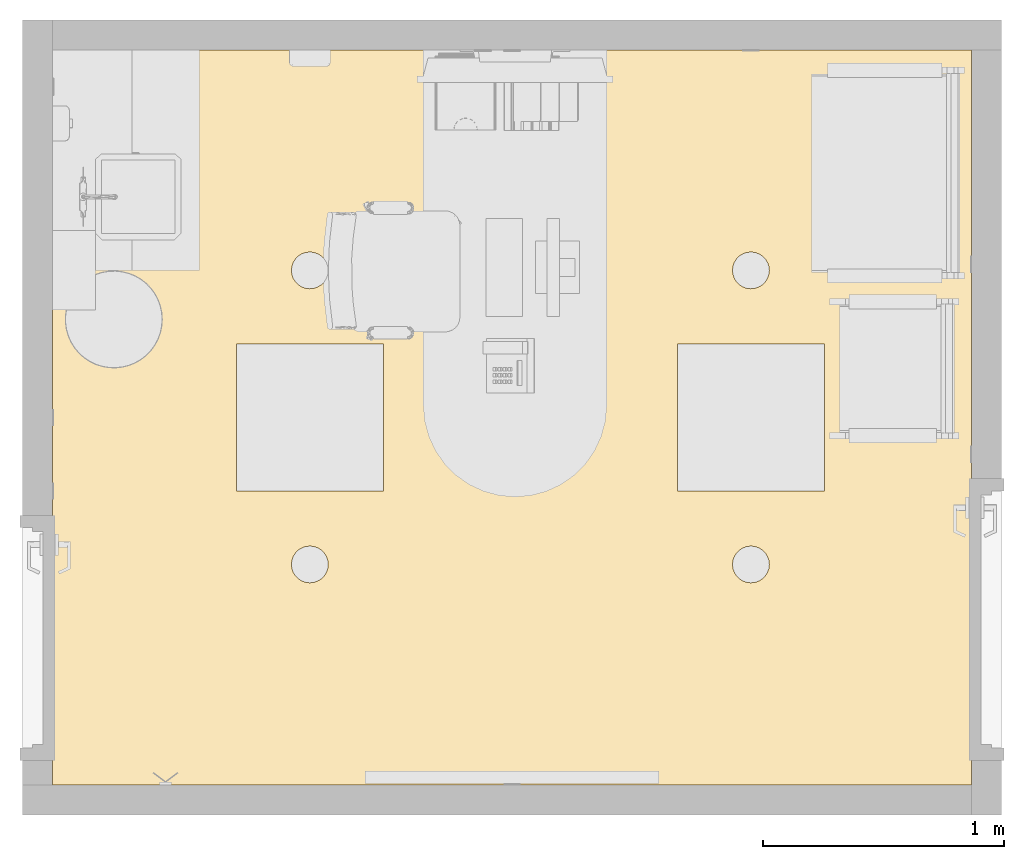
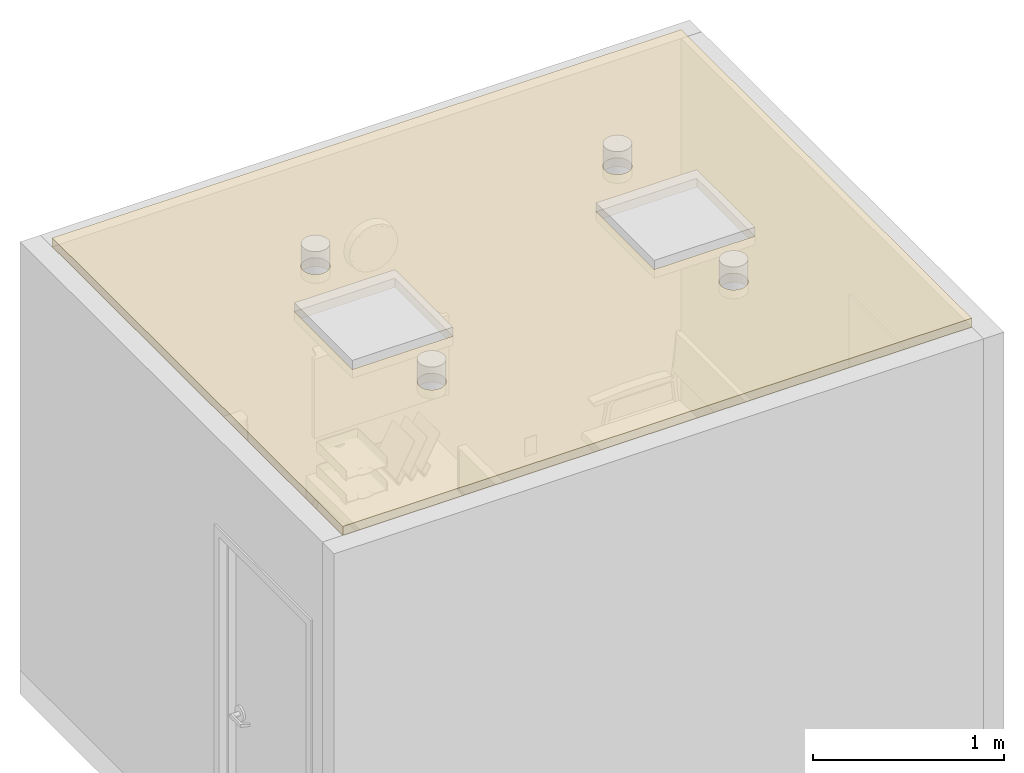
# One storey, part 4 of 10: 1 covering.
"""IFC2X3 building model written with IfcOpenShell, lengths in feet."""

import ifcopenshell
import ifcopenshell.guid

model = None  # the IFC model being written
_history = None  # IfcOwnerHistory: only IFC2X3 demands one
_inside = {}  # id of a spatial element -> (the spatial element, [elements in it])
_under = {}  # id of a project, library or spatial element -> (it, [spatial elements below it])
_declared = {}  # id of a project -> (the project, [libraries it declares])
_typed = {}  # id of a type object -> (the type object, [elements of that type])
_made_of = {}  # id of a material, layer set ... -> (it, [elements and type objects made of it])


def new_model(schema):
    """Start an empty IFC model of exactly this schema.

    Asked for "IFC4X3", IfcOpenShell would pick the latest addendum, in which some entities
    have other attributes; the version numbers below select the first issue.
    IFC2X3 requires an IfcOwnerHistory on every rooted entity: one is made here for all.
    """
    global model, _history
    if schema == "IFC4X3":
        model = ifcopenshell.file(schema_version=(4, 3, 0, 0))
    else:
        model = ifcopenshell.file(schema=schema)
    _inside.clear()
    _under.clear()
    _declared.clear()
    _typed.clear()
    _made_of.clear()
    _history = None
    if model.schema == "IFC2X3":
        org = make("IfcOrganization", Name="unknown")
        user = make(
            "IfcPersonAndOrganization",
            ThePerson=make("IfcPerson", FamilyName="unknown"),
            TheOrganization=org,
        )
        app = make(
            "IfcApplication",
            ApplicationDeveloper=org,
            Version="unknown",
            ApplicationFullName="unknown",
            ApplicationIdentifier="unknown",
        )
        _history = make(
            "IfcOwnerHistory",
            OwningUser=user,
            OwningApplication=app,
            ChangeAction="ADDED",
            CreationDate=0,
        )
    return model


def make(cls, **values):
    """One entity of the class cls with the attributes given. An attribute that is None is left unset."""
    return model.create_entity(
        cls, **{name: value for name, value in values.items() if value is not None}
    )


def entity(cls, *values):
    """Any entity or typed value of the class cls, its attributes in the order of the schema. None: left unset."""
    e = model.create_entity(cls)
    for i, value in enumerate(values):
        if value is not None:
            e[i] = value
    return e


def rooted(cls, **values):
    """An entity with a GlobalId (a new one), such as an element, a storey or a relation."""
    return make(cls, GlobalId=ifcopenshell.guid.new(), OwnerHistory=_history, **values)


def si_unit(unit_type, name, prefix=None):
    """IfcSIUnit, for example si_unit("LENGTHUNIT", "METRE", prefix="MILLI")."""
    return make("IfcSIUnit", UnitType=unit_type, Prefix=prefix, Name=name)


def converted_unit(unit_type, name, factor, base, dimensions=None, offset=None):
    """IfcConversionBasedUnit, such as the inch: factor (a typed value) times the base unit."""
    return make(
        "IfcConversionBasedUnit"
        if offset is None
        else "IfcConversionBasedUnitWithOffset",
        ConversionOffset=offset,
        Dimensions=None
        if dimensions is None
        else entity("IfcDimensionalExponents", *dimensions),
        UnitType=unit_type,
        Name=name,
        ConversionFactor=make(
            "IfcMeasureWithUnit", ValueComponent=factor, UnitComponent=base
        ),
    )


def derived_unit(unit_type, elements):
    """IfcDerivedUnit: a product of units, each with its exponent."""
    return make(
        "IfcDerivedUnit",
        Elements=[
            make("IfcDerivedUnitElement", Unit=unit, Exponent=power)
            for unit, power in elements
        ],
        UnitType=unit_type,
    )


def assignment(units):
    """IfcUnitAssignment: the units of a project."""
    return None if units is None else make("IfcUnitAssignment", Units=units)


def point(xyz):
    """IfcCartesianPoint."""
    return None if xyz is None else make("IfcCartesianPoint", Coordinates=xyz)


def direction(xyz):
    """IfcDirection."""
    return None if xyz is None else make("IfcDirection", DirectionRatios=xyz)


def frame(location, z_axis=None, x_axis=None):
    """IfcAxis2Placement3D, a coordinate frame: its origin and axes. An axis left out is left unset."""
    return make(
        "IfcAxis2Placement3D",
        Location=point(location),
        Axis=direction(z_axis),
        RefDirection=direction(x_axis),
    )


def frame_2d(location, x_axis=None):
    """IfcAxis2Placement2D, a coordinate frame in the plane: its origin and x axis."""
    return make(
        "IfcAxis2Placement2D", Location=point(location), RefDirection=direction(x_axis)
    )


def origin():
    """The frame at (0, 0, 0) with its axes left unset."""
    return frame((0.0, 0.0, 0.0))


def place(relative_to, where):
    """IfcLocalPlacement: puts the frame where relative to a parent placement (None: the world)."""
    return make(
        "IfcLocalPlacement", PlacementRelTo=relative_to, RelativePlacement=where
    )


def context(
    kind, dimensions, precision=None, world=None, true_north=None, identifier=None
):
    """IfcGeometricRepresentationContext, for example the 3D "Model" context."""
    return make(
        "IfcGeometricRepresentationContext",
        ContextIdentifier=identifier,
        ContextType=kind,
        CoordinateSpaceDimension=dimensions,
        Precision=precision,
        WorldCoordinateSystem=world,
        TrueNorth=true_north,
    )


def subcontext(parent, identifier, kind, view, scale=None):
    """IfcGeometricRepresentationSubContext, for example "Body" below "Model"."""
    return make(
        "IfcGeometricRepresentationSubContext",
        ContextIdentifier=identifier,
        ContextType=kind,
        ParentContext=parent,
        TargetScale=scale,
        TargetView=view,
    )


def project(units=None, contexts=None):
    """IfcProject with its units and contexts."""
    return rooted(
        "IfcProject",
        Name="project",
        RepresentationContexts=contexts,
        UnitsInContext=assignment(units),
    )


def spatial(cls, under=None, at=None, **own):
    """A site, building, storey or space (cls), placed at a placement, below another one or the project."""
    s = rooted(cls, ObjectPlacement=at, **own)
    if under is not None:
        _under.setdefault(under.id(), (under, []))[1].append(s)
    return s


def polyline(points):
    """IfcPolyline through the points."""
    return make("IfcPolyline", Points=[point(p) for p in points])


def circle_curve(where, radius):
    """IfcCircle in the frame where."""
    return make("IfcCircle", Position=where, Radius=radius)


def parameter(value):
    """IfcParameterValue: where a trimmed curve begins or ends, as a parameter of its basis curve."""
    return model.create_entity("IfcParameterValue", value)


def trimmed(basis, trim1, trim2, sense, master):
    """IfcTrimmedCurve: the piece of a basis curve between two trims."""
    return make(
        "IfcTrimmedCurve",
        BasisCurve=basis,
        Trim1=trim1,
        Trim2=trim2,
        SenseAgreement=sense,
        MasterRepresentation=master,
    )


def segment(curve, same_sense, transition):
    """IfcCompositeCurveSegment."""
    return make(
        "IfcCompositeCurveSegment",
        Transition=transition,
        SameSense=same_sense,
        ParentCurve=curve,
    )


def composite_curve(segments, self_intersect=None):
    """IfcCompositeCurve: segments joined end to end."""
    return make("IfcCompositeCurve", Segments=segments, SelfIntersect=self_intersect)


def outline(outer, holes=None, kind="AREA"):
    """IfcArbitraryClosedProfileDef: a profile drawn as a closed curve; with holes, ...WithVoids."""
    if holes is None:
        return make("IfcArbitraryClosedProfileDef", ProfileType=kind, OuterCurve=outer)
    return make(
        "IfcArbitraryProfileDefWithVoids",
        ProfileType=kind,
        OuterCurve=outer,
        InnerCurves=holes,
    )


def extrude(swept, where, along, depth):
    """IfcExtrudedAreaSolid: the profile swept, set in the frame where, extruded along a direction by depth."""
    return make(
        "IfcExtrudedAreaSolid",
        SweptArea=swept,
        Position=where,
        ExtrudedDirection=direction(along),
        Depth=depth,
    )


def shape(context_of_items, identifier, shape_type, items):
    """IfcShapeRepresentation: the items that make up one representation, for example the "Body"."""
    return make(
        "IfcShapeRepresentation",
        ContextOfItems=context_of_items,
        RepresentationIdentifier=identifier,
        RepresentationType=shape_type,
        Items=items,
    )


def material(Name=None, Category=None):
    """IfcMaterial."""
    return make("IfcMaterial", Name=Name, Category=Category)


def layer(
    of_material, thickness, ventilated=None, Name=None, Category=None, Priority=None
):
    """IfcMaterialLayer: one layer of a wall or slab, of a material (None: an air gap)."""
    return make(
        "IfcMaterialLayer",
        Material=of_material,
        LayerThickness=thickness,
        IsVentilated=ventilated,
        Name=Name,
        Category=Category,
        Priority=Priority,
    )


def layer_set(layers, Name=None):
    """IfcMaterialLayerSet."""
    return make("IfcMaterialLayerSet", MaterialLayers=layers, LayerSetName=Name)


def layer_usage(for_layer_set, set_direction, sense, offset, extent=None):
    """IfcMaterialLayerSetUsage: how a layer set lies in its element."""
    return make(
        "IfcMaterialLayerSetUsage",
        ForLayerSet=for_layer_set,
        LayerSetDirection=set_direction,
        DirectionSense=sense,
        OffsetFromReferenceLine=offset,
        ReferenceExtent=extent,
    )


def made_of(thing, what):
    """Note that an element or type object is made of a material, layer set ...; save() writes the relation."""
    if what is not None:
        _made_of.setdefault(what.id(), (what, []))[1].append(thing)
    return thing


def element(
    cls,
    number,
    at=None,
    inside=None,
    cuts=None,
    type_object=None,
    material=None,
    context=None,
    identifier="Body",
    shape_type=None,
    held_by="IfcProductDefinitionShape",
    body=None,
    shapes=None,
    **own,
):
    """One element of the class cls, such as IfcWall. Its Tag is "e" and its number.

    at: its placement. inside: the storey or other place that contains it. cuts: it is an
    opening in that element (IfcRelVoidsElement). A single representation is given by context,
    identifier, shape_type and body (its items); several are given by shapes. held_by: the class
    of the entity that holds the representations. save() writes the other relations.
    """
    e = rooted(cls, Tag="e%d" % number, ObjectPlacement=at, **own)
    if body is not None:
        shapes = [shape(context, identifier, shape_type, body)]
    if shapes is not None:
        e.Representation = make(held_by, Representations=shapes)
    if inside is not None:
        _inside.setdefault(inside.id(), (inside, []))[1].append(e)
    if cuts is not None:
        rooted(
            "IfcRelVoidsElement", RelatingBuildingElement=cuts, RelatedOpeningElement=e
        )
    if type_object is not None:
        _typed.setdefault(type_object.id(), (type_object, []))[1].append(e)
    return made_of(e, material)


def aggregate(whole, parts):
    """IfcRelAggregates: a whole, such as a stair, and the parts it consists of."""
    return rooted("IfcRelAggregates", RelatingObject=whole, RelatedObjects=parts)


def save(model, path):
    """Write the relations noted so far, then the file.

    IfcRelAggregates (storeys below a building ...), IfcRelContainedInSpatialStructure (elements
    in a storey), IfcRelDefinesByType, IfcRelAssociatesMaterial and IfcRelDeclares: one each for
    every whole, place, type object, material and project.
    """
    for whole, parts in _under.values():
        aggregate(whole, parts)
    for where, things in _inside.values():
        rooted(
            "IfcRelContainedInSpatialStructure",
            RelatedElements=things,
            RelatingStructure=where,
        )
    for kind, things in _typed.values():
        rooted("IfcRelDefinesByType", RelatedObjects=things, RelatingType=kind)
    for what, things in _made_of.values():
        rooted("IfcRelAssociatesMaterial", RelatedObjects=things, RelatingMaterial=what)
    for by, libraries in _declared.values():
        rooted("IfcRelDeclares", RelatingContext=by, RelatedDefinitions=libraries)
    model.write(path)


model = new_model("IFC2X3")

# Units and contexts
model_context = context("Model", 3, precision=0.0001, world=origin(), true_north=direction((6.12303176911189e-17, 1.0)))
body_context = subcontext(model_context, "Body", "Model", "MODEL_VIEW")
ifc_project = project(units=[converted_unit("LENGTHUNIT", "FOOT", entity("IfcRatioMeasure", 0.3048), si_unit("LENGTHUNIT", "METRE"), dimensions=[1, 0, 0, 0, 0, 0, 0]), converted_unit("AREAUNIT", "SQUARE FOOT", entity("IfcRatioMeasure", 0.09290304), si_unit("AREAUNIT", "SQUARE_METRE"), dimensions=[2, 0, 0, 0, 0, 0, 0]), converted_unit("VOLUMEUNIT", "CUBIC FOOT", entity("IfcRatioMeasure", 0.028316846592), si_unit("VOLUMEUNIT", "CUBIC_METRE"), dimensions=[3, 0, 0, 0, 0, 0, 0]), converted_unit("PLANEANGLEUNIT", "DEGREE", entity("IfcRatioMeasure", 0.0174532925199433), si_unit("PLANEANGLEUNIT", "RADIAN"), dimensions=[0, 0, 0, 0, 0, 0, 0]), si_unit("MASSUNIT", "GRAM", prefix="KILO"), derived_unit("MASSDENSITYUNIT", [(si_unit("MASSUNIT", "GRAM", prefix="KILO"), 1), (si_unit("LENGTHUNIT", "METRE"), -3)]), si_unit("TIMEUNIT", "SECOND"), si_unit("FREQUENCYUNIT", "HERTZ"), si_unit("THERMODYNAMICTEMPERATUREUNIT", "DEGREE_CELSIUS"), derived_unit("THERMALTRANSMITTANCEUNIT", [(si_unit("MASSUNIT", "GRAM", prefix="KILO"), 1), (si_unit("THERMODYNAMICTEMPERATUREUNIT", "KELVIN"), -1), (si_unit("TIMEUNIT", "SECOND"), -3)]), derived_unit("VOLUMETRICFLOWRATEUNIT", [(si_unit("LENGTHUNIT", "METRE"), 3), (si_unit("TIMEUNIT", "SECOND"), -1)]), si_unit("ELECTRICCURRENTUNIT", "AMPERE"), si_unit("ELECTRICVOLTAGEUNIT", "VOLT"), si_unit("POWERUNIT", "WATT"), si_unit("FORCEUNIT", "NEWTON"), si_unit("ILLUMINANCEUNIT", "LUX"), si_unit("LUMINOUSFLUXUNIT", "LUMEN"), si_unit("LUMINOUSINTENSITYUNIT", "CANDELA"), derived_unit("USERDEFINED", [(si_unit("MASSUNIT", "GRAM", prefix="KILO"), -1), (si_unit("LENGTHUNIT", "METRE"), -2), (si_unit("TIMEUNIT", "SECOND"), 3), (si_unit("LUMINOUSFLUXUNIT", "LUMEN"), 1)]), derived_unit("LINEARVELOCITYUNIT", [(si_unit("LENGTHUNIT", "METRE"), 1), (si_unit("TIMEUNIT", "SECOND"), -1)]), si_unit("PRESSUREUNIT", "PASCAL"), derived_unit("USERDEFINED", [(si_unit("LENGTHUNIT", "METRE"), -2), (si_unit("MASSUNIT", "GRAM", prefix="KILO"), 1), (si_unit("TIMEUNIT", "SECOND"), -2)])], contexts=[model_context])

# Site, building, storey
site_placement = place(None, origin())
site = spatial("IfcSite", under=ifc_project, at=site_placement, Name="Default", CompositionType="ELEMENT")
building_placement = place(site_placement, origin())
building = spatial("IfcBuilding", under=site, at=building_placement, Name="OUTPATIENT / PACT CLINIC (Ch. 265)", CompositionType="ELEMENT")
storey_placement = place(building_placement, origin())
storey = spatial("IfcBuildingStorey", under=building, at=storey_placement, Name="DATUM", CompositionType="ELEMENT", Elevation=0.0)

# Covering
ifc_material_1 = material(Name="<Unnamed>")
ifc_layer_1 = layer(ifc_material_1, 0.135416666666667)
ifc_material_2 = material(Name="Acoustic Ceiling Tile 24 x 24")
ifc_layer_2 = layer(ifc_material_2, 0.0520833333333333)
ifc_layer_set = layer_set([ifc_layer_1, ifc_layer_2], Name="Compound Ceiling:2' x 2' ACT System")
ifc_layer_usage = layer_usage(ifc_layer_set, "AXIS3", "POSITIVE", 0.0)
covering_placement = place(storey_placement, origin())
element("IfcCovering", 1, at=covering_placement, inside=storey, material=ifc_layer_usage, Name="Compound Ceiling:2' x 2' ACT System", ObjectType="Compound Ceiling:2' x 2' ACT System", PredefinedType="CEILING", context=body_context, shape_type="SweptSolid", body=[
    extrude(outline(polyline([(-5.0, -6.25000000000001), (5.0, -6.25000000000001), (5.0, 6.25), (-5.0, 6.25000000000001), (-5.0, -6.25000000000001)]), holes=[polyline([(1.0, -3.74999999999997), (-1.0, -3.74999999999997), (-1.0, -1.74999999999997), (1.0, -1.74999999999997), (1.0, -3.74999999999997)]), polyline([(1.0, 2.25000000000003), (-1.0, 2.25000000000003), (-1.0, 4.25000000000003), (1.0, 4.25000000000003), (1.0, 2.25000000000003)]), composite_curve([segment(trimmed(circle_curve(frame_2d((-2.0, -2.74999999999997), x_axis=(0.0, 1.0)), 0.25), [parameter(180.0)], [parameter(0.0)], True, "PARAMETER"), False, "CONTINUOUS"), segment(trimmed(circle_curve(frame_2d((-2.0, -2.74999999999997), x_axis=(0.0, 1.0)), 0.25), [parameter(0.0)], [parameter(180.0)], True, "PARAMETER"), False, "CONTINUOUS")], self_intersect=False), composite_curve([segment(trimmed(circle_curve(frame_2d((2.0, -2.74999999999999), x_axis=(0.0, 1.0)), 0.25), [parameter(180.0)], [parameter(0.0)], True, "PARAMETER"), False, "CONTINUOUS"), segment(trimmed(circle_curve(frame_2d((2.0, -2.74999999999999), x_axis=(0.0, 1.0)), 0.25), [parameter(0.0)], [parameter(180.0)], True, "PARAMETER"), False, "CONTINUOUS")], self_intersect=False), composite_curve([segment(trimmed(circle_curve(frame_2d((2.0, 3.25000000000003), x_axis=(0.0, 1.0)), 0.25), [parameter(180.0)], [parameter(0.0)], True, "PARAMETER"), False, "CONTINUOUS"), segment(trimmed(circle_curve(frame_2d((2.0, 3.25000000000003), x_axis=(0.0, 1.0)), 0.25), [parameter(0.0)], [parameter(180.0)], True, "PARAMETER"), False, "CONTINUOUS")], self_intersect=False), composite_curve([segment(trimmed(circle_curve(frame_2d((-2.0, 3.25000000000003), x_axis=(0.0, 1.0)), 0.25), [parameter(180.0)], [parameter(0.0)], True, "PARAMETER"), False, "CONTINUOUS"), segment(trimmed(circle_curve(frame_2d((-2.0, 3.25000000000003), x_axis=(0.0, 1.0)), 0.25), [parameter(0.0)], [parameter(180.0)], True, "PARAMETER"), False, "CONTINUOUS")], self_intersect=False)]), frame((-72.0053643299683, -856.690450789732, 9.0), z_axis=(0.0, 0.0, 1.0), x_axis=(0.0, -1.0, 0.0)), (0.0, 0.0, 1.0), 0.1875),
])

save(model, "model.ifc")
